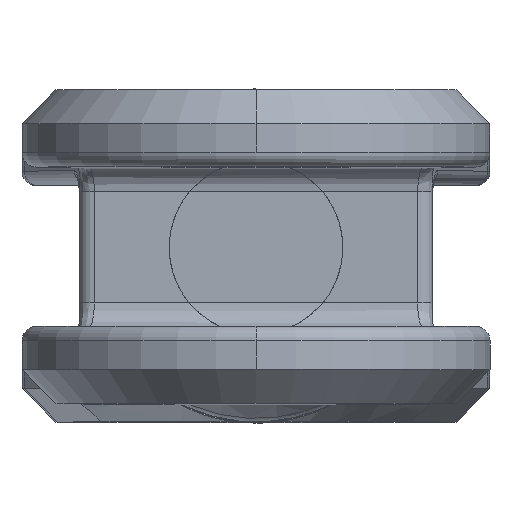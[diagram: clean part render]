
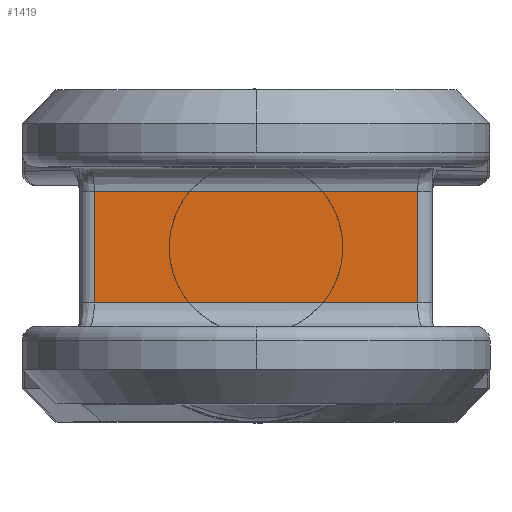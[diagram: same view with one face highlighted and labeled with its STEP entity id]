
A CAD part, top view. The second image highlights one B-rep face of the part: STEP entity #1419.
In plain terms, the highlighted planar face has unit normal (0, 0, 1) as drawn and (0, 0, -1) by its records, which use the part's own axes.
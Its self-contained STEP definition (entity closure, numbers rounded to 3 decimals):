
#593 = EDGE_CURVE ( 'NONE', #3153, #8745, #3335, .T. ) ;
#733 = ORIENTED_EDGE ( 'NONE', *, *, #593, .T. ) ;
#1147 = VERTEX_POINT ( 'NONE', #10006 ) ;
#1419 = ADVANCED_FACE ( 'NONE', ( #2306 ), #9793, .F. ) ;
#1454 = EDGE_CURVE ( 'NONE', #8745, #7915, #1984, .T. ) ;
#1702 = VECTOR ( 'NONE', #11156, 1000. ) ;
#1984 = LINE ( 'NONE', #10814, #6743 ) ;
#2306 = FACE_OUTER_BOUND ( 'NONE', #2901, .T. ) ;
#2539 = CARTESIAN_POINT ( 'NONE',  ( -7.503, 11.5, -77. ) ) ;
#2670 = DIRECTION ( 'NONE',  ( 0., 1., 0. ) ) ;
#2711 = CARTESIAN_POINT ( 'NONE',  ( -7.503, -11.5, -77. ) ) ;
#2901 = EDGE_LOOP ( 'NONE', ( #7710, #733, #3034, #10154 ) ) ;
#3034 = ORIENTED_EDGE ( 'NONE', *, *, #1454, .T. ) ;
#3153 = VERTEX_POINT ( 'NONE', #3185 ) ;
#3185 = CARTESIAN_POINT ( 'NONE',  ( -7.503, -11.5, -77. ) ) ;
#3335 = LINE ( 'NONE', #2711, #6161 ) ;
#3564 = CARTESIAN_POINT ( 'NONE',  ( 59.503, -11.5, -77. ) ) ;
#3579 = CARTESIAN_POINT ( 'NONE',  ( -30.864, -11.5, -77. ) ) ;
#4087 = CARTESIAN_POINT ( 'NONE',  ( -30.864, -11.5, -77. ) ) ;
#4133 = DIRECTION ( 'NONE',  ( 1., 0., 0. ) ) ;
#4961 = EDGE_CURVE ( 'NONE', #3153, #1147, #6144, .T. ) ;
#5186 = DIRECTION ( 'NONE',  ( 0., 0., 1. ) ) ;
#6144 = LINE ( 'NONE', #3579, #9264 ) ;
#6161 = VECTOR ( 'NONE', #2670, 1000. ) ;
#6743 = VECTOR ( 'NONE', #8883, 1000. ) ;
#7003 = AXIS2_PLACEMENT_3D ( 'NONE', #4087, #5186, #4133 ) ;
#7710 = ORIENTED_EDGE ( 'NONE', *, *, #4961, .F. ) ;
#7915 = VERTEX_POINT ( 'NONE', #11323 ) ;
#8745 = VERTEX_POINT ( 'NONE', #2539 ) ;
#8883 = DIRECTION ( 'NONE',  ( 1., 0., 0. ) ) ;
#9264 = VECTOR ( 'NONE', #11935, 1000. ) ;
#9793 = PLANE ( 'NONE',  #7003 ) ;
#10006 = CARTESIAN_POINT ( 'NONE',  ( 59.503, -11.5, -77. ) ) ;
#10154 = ORIENTED_EDGE ( 'NONE', *, *, #10544, .T. ) ;
#10544 = EDGE_CURVE ( 'NONE', #7915, #1147, #11822, .T. ) ;
#10814 = CARTESIAN_POINT ( 'NONE',  ( -30.864, 11.5, -77. ) ) ;
#11156 = DIRECTION ( 'NONE',  ( 0., -1., 0. ) ) ;
#11323 = CARTESIAN_POINT ( 'NONE',  ( 59.503, 11.5, -77. ) ) ;
#11822 = LINE ( 'NONE', #3564, #1702 ) ;
#11935 = DIRECTION ( 'NONE',  ( 1., 0., 0. ) ) ;
